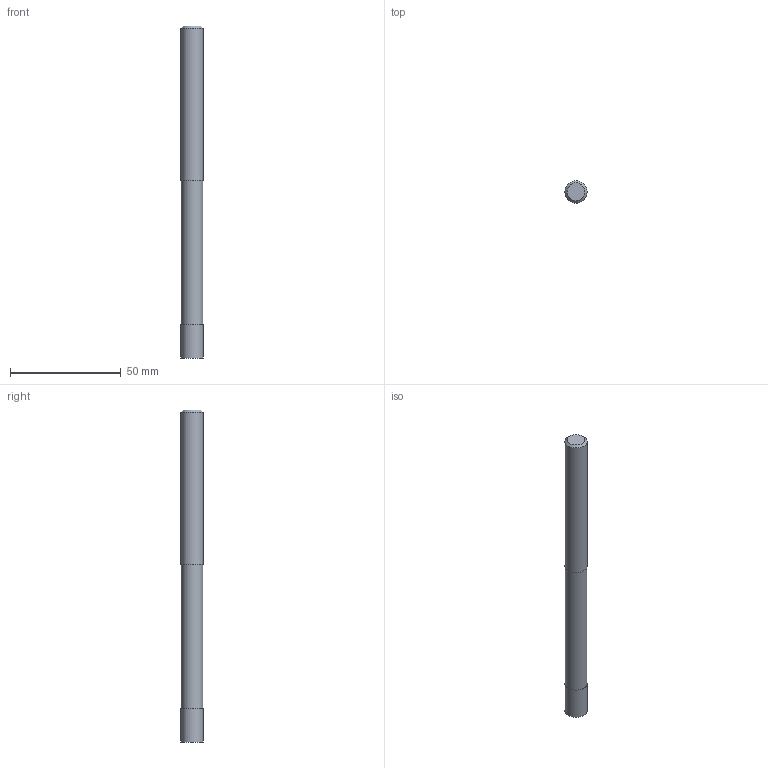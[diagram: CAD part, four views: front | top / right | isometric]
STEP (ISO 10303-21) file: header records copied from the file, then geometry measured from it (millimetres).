
FILE_DESCRIPTION((''),'2;1');
FILE_NAME('C:\Users\nsx150\AppData\Local\Temp\Mastercam 2021\17T8Q8S9EB\TEMP.step','2021-04-21T16:16:48',(''),(''),'STEP Write','Mastercam 2021 ... CNC Software, Inc.','');
FILE_SCHEMA(('AUTOMOTIVE_DESIGN'));
Length unit declared in the file: millimetre
Products named in the file (1): None
Bounding box: 10 x 10 x 150 mm (x, y, z)
Volume: 11564.2 mm3; surface area: 4966 mm2
Topology: 2 solids, 2 shells, 9 faces, 11 edges, 7 vertices
Faces by surface type: plane 5, cylinder 3, cone 1
Full cylindrical faces by diameter (mm): 9.8 x1, 10 x2
Entity records: 211 total; most frequent: DIRECTION 36, CARTESIAN_POINT 25, AXIS2_PLACEMENT_3D 18, ORIENTED_EDGE 14, EDGE_LOOP 14, STYLED_ITEM 12, ADVANCED_FACE 9, FACE_BOUND 8
